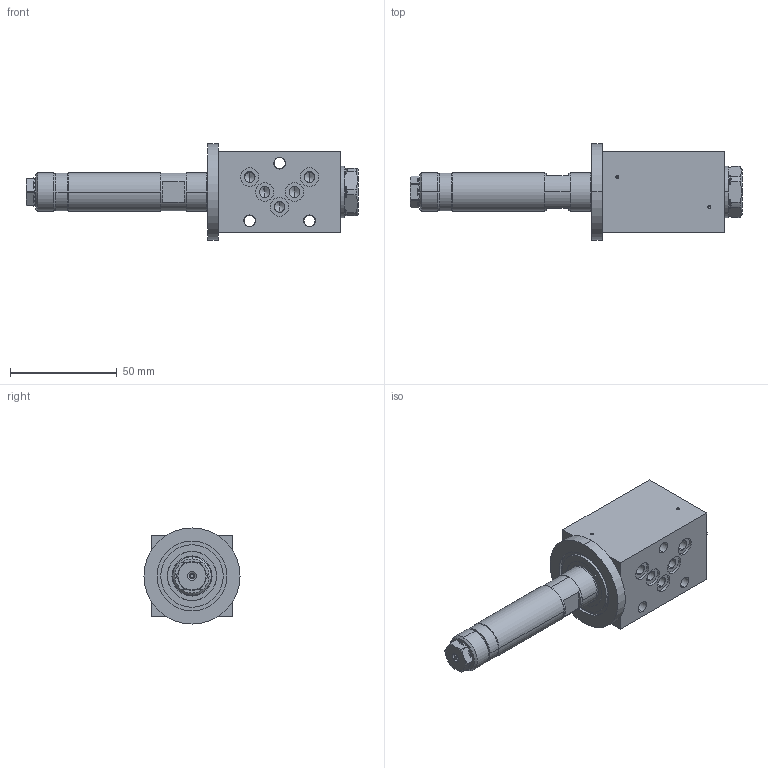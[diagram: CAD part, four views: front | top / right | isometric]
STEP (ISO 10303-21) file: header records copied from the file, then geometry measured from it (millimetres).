
FILE_DESCRIPTION (( 'STEP AP214' ), '1' );
FILE_NAME ('WDYFA04-4_2-Aside.STEP', '2016-04-06T09:49:44', ( '' ), ( '' ), 'SwSTEP 2.0', 'SolidWorks 2014', '' );
FILE_SCHEMA (( 'AUTOMOTIVE_DESIGN' ));
Length unit declared in the file: millimetre
Products named in the file (2): WDYFA04-4_2-Aside
Bounding box: 155.4 x 45 x 45 mm (x, y, z)
Volume: 109064.6 mm3; surface area: 25075.1 mm2
Topology: 2 solids, 2 shells, 348 faces, 839 edges, 540 vertices
Faces by surface type: plane 128, cylinder 110, cone 72, bspline 24, torus 14
Entity records: 15758 total; most frequent: CARTESIAN_POINT 4075, ORIENTED_EDGE 1646, DIRECTION 1602, EDGE_CURVE 823, AXIS2_PLACEMENT_3D 613, VERTEX_POINT 540, EDGE_LOOP 417, VECTOR 376
